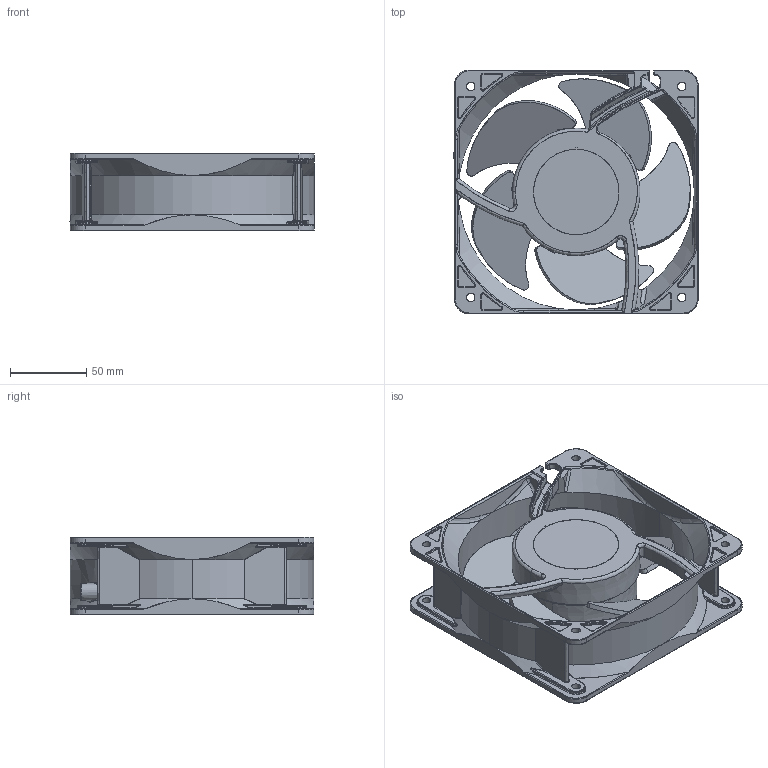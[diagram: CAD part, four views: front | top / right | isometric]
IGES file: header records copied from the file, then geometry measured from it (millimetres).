
Start section: SolidWorks IGES file using analytic representation for surfaces
Global section: file name: T:\02_設計\02_業務\DG22001_顧客対応\提出用3Dデータ（フレーム・フィンガーガード）\◆データ公開資料\オリジナルデータ２：保管用3D・・・提出用は”3D”フォルダ\FAN\160角51厚AD,ADWタイプ\16051AD_RIBLESS.IGS,15HSolidWorks 2019,15HSolidWorks 2019,32,308,15, 308,15,22H16051AD_; native system: RIBLESS.SLDPRT; preprocessor: 1.; date: 221130.172303
Bounding box: 160.37 x 160 x 51 mm (x, y, z)
Surface area: 126084.7 mm2 (no closed solid volume)
Topology: 0 solids, 0 shells, 1167 faces, 9928 edges, 9870 vertices
Faces by surface type: bspline 733, revolution 434
